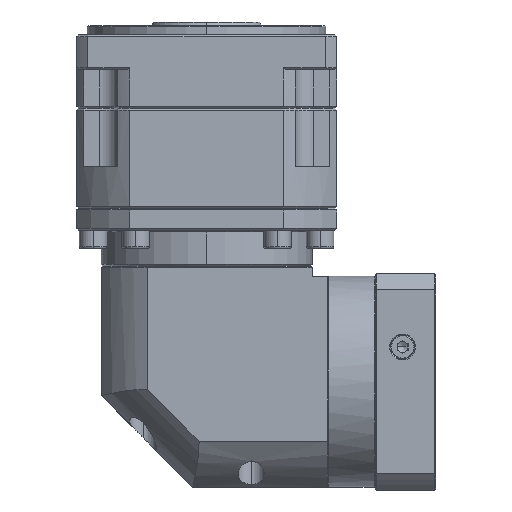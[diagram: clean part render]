
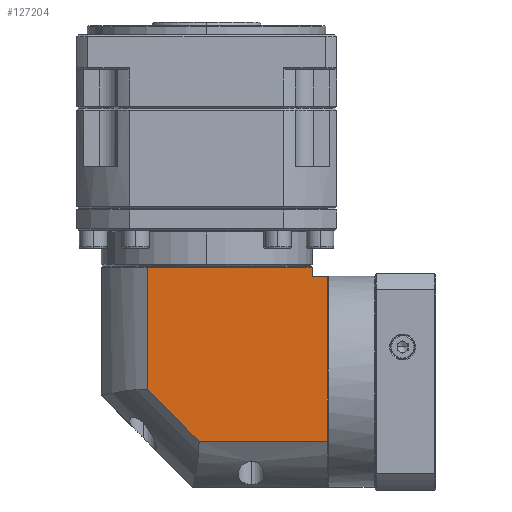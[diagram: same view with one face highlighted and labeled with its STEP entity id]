
A CAD part, left-side view. The second image highlights one B-rep face of the part: STEP entity #127204.
In plain terms, the highlighted planar face has unit normal (-1, 0, 0).
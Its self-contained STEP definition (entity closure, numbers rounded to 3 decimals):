
#2563 = DIRECTION ( 'NONE',  ( 1., 0., 0. ) ) ;
#2862 = LINE ( 'NONE', #70682, #17785 ) ;
#4592 = VERTEX_POINT ( 'NONE', #53937 ) ;
#7388 = LINE ( 'NONE', #9547, #15925 ) ;
#9547 = CARTESIAN_POINT ( 'NONE',  ( 5.556, -32.275, 122.9 ) ) ;
#11104 = ORIENTED_EDGE ( 'NONE', *, *, #162955, .T. ) ;
#12491 = CARTESIAN_POINT ( 'NONE',  ( 5.556, -40.675, 148. ) ) ;
#15925 = VECTOR ( 'NONE', #142953, 1000. ) ;
#17162 = EDGE_CURVE ( 'NONE', #63003, #100113, #166836, .T. ) ;
#17704 = CARTESIAN_POINT ( 'NONE',  ( 5.556, -32.275, 237.9 ) ) ;
#17785 = VECTOR ( 'NONE', #43228, 1000. ) ;
#18450 = ORIENTED_EDGE ( 'NONE', *, *, #89229, .F. ) ;
#20599 = CARTESIAN_POINT ( 'NONE',  ( 5.556, 29.286, 148. ) ) ;
#23096 = LINE ( 'NONE', #155635, #31670 ) ;
#31670 = VECTOR ( 'NONE', #33804, 1000. ) ;
#33804 = DIRECTION ( 'NONE',  ( 0., 0.707, 0.707 ) ) ;
#36845 = CARTESIAN_POINT ( 'NONE',  ( 5.556, 82.725, 148. ) ) ;
#38143 = DIRECTION ( 'NONE',  ( 0., 0., 1. ) ) ;
#41982 = DIRECTION ( 'NONE',  ( 0., 1., 0. ) ) ;
#43228 = DIRECTION ( 'NONE',  ( 0., 0., -1. ) ) ;
#44167 = ORIENTED_EDGE ( 'NONE', *, *, #159750, .F. ) ;
#46364 = LINE ( 'NONE', #17704, #63550 ) ;
#53937 = CARTESIAN_POINT ( 'NONE',  ( 5.556, 57.625, 176.338 ) ) ;
#57788 = EDGE_CURVE ( 'NONE', #69859, #93820, #7388, .T. ) ;
#60139 = VERTEX_POINT ( 'NONE', #126968 ) ;
#63003 = VERTEX_POINT ( 'NONE', #12491 ) ;
#63550 = VECTOR ( 'NONE', #88014, 1000. ) ;
#64781 = ORIENTED_EDGE ( 'NONE', *, *, #17162, .F. ) ;
#65205 = LINE ( 'NONE', #129366, #116356 ) ;
#69859 = VERTEX_POINT ( 'NONE', #75184 ) ;
#70682 = CARTESIAN_POINT ( 'NONE',  ( 5.556, -40.675, 249.4 ) ) ;
#74988 = VECTOR ( 'NONE', #159864, 1000. ) ;
#75184 = CARTESIAN_POINT ( 'NONE',  ( 5.556, -32.275, 237.9 ) ) ;
#75235 = LINE ( 'NONE', #119846, #100845 ) ;
#75705 = EDGE_CURVE ( 'NONE', #100113, #4592, #23096, .T. ) ;
#85941 = CARTESIAN_POINT ( 'NONE',  ( 5.556, -32.275, 242.9 ) ) ;
#88014 = DIRECTION ( 'NONE',  ( 0., 1., 0. ) ) ;
#89229 = EDGE_CURVE ( 'NONE', #60139, #93820, #65205, .T. ) ;
#93820 = VERTEX_POINT ( 'NONE', #85941 ) ;
#94646 = VERTEX_POINT ( 'NONE', #162092 ) ;
#95629 = AXIS2_PLACEMENT_3D ( 'NONE', #136255, #2563, #41982 ) ;
#100113 = VERTEX_POINT ( 'NONE', #20599 ) ;
#100845 = VECTOR ( 'NONE', #38143, 1000. ) ;
#109911 = FACE_OUTER_BOUND ( 'NONE', #136902, .T. ) ;
#116356 = VECTOR ( 'NONE', #171246, 1000. ) ;
#119846 = CARTESIAN_POINT ( 'NONE',  ( 5.556, 57.625, 249.4 ) ) ;
#123687 = PLANE ( 'NONE',  #95629 ) ;
#126968 = CARTESIAN_POINT ( 'NONE',  ( 5.556, 57.625, 242.9 ) ) ;
#127204 = ADVANCED_FACE ( 'NONE', ( #109911 ), #123687, .F. ) ;
#129366 = CARTESIAN_POINT ( 'NONE',  ( 5.556, 82.725, 242.9 ) ) ;
#132013 = EDGE_CURVE ( 'NONE', #94646, #63003, #2862, .T. ) ;
#136255 = CARTESIAN_POINT ( 'NONE',  ( 5.556, 82.725, 249.4 ) ) ;
#136902 = EDGE_LOOP ( 'NONE', ( #44167, #162148, #64781, #141026, #11104, #155091, #18450 ) ) ;
#141026 = ORIENTED_EDGE ( 'NONE', *, *, #132013, .F. ) ;
#142953 = DIRECTION ( 'NONE',  ( 0., 0., 1. ) ) ;
#155091 = ORIENTED_EDGE ( 'NONE', *, *, #57788, .T. ) ;
#155635 = CARTESIAN_POINT ( 'NONE',  ( 5.556, 29.286, 148. ) ) ;
#159750 = EDGE_CURVE ( 'NONE', #4592, #60139, #75235, .T. ) ;
#159864 = DIRECTION ( 'NONE',  ( 0., 1., 0. ) ) ;
#162092 = CARTESIAN_POINT ( 'NONE',  ( 5.556, -40.675, 237.9 ) ) ;
#162148 = ORIENTED_EDGE ( 'NONE', *, *, #75705, .F. ) ;
#162955 = EDGE_CURVE ( 'NONE', #94646, #69859, #46364, .T. ) ;
#166836 = LINE ( 'NONE', #36845, #74988 ) ;
#171246 = DIRECTION ( 'NONE',  ( 0., -1., 0. ) ) ;
